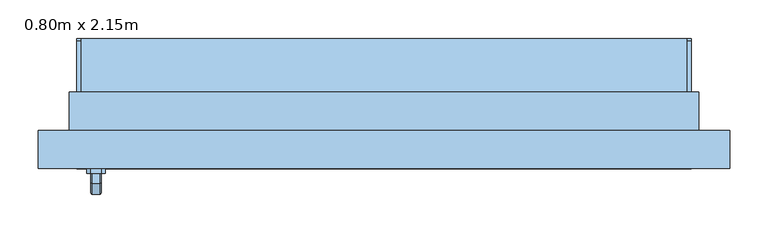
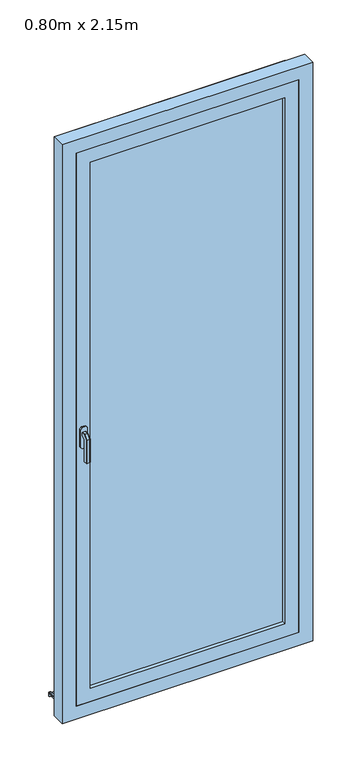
"""IFC4 building model written with IfcOpenShell, lengths in millimetres: window geometry, PF 1 Vantail - Droite : 0.80m x 2.15m."""

from ifc_helpers import new_model, si_unit, point, frame, frame_2d, origin, place, context, project, spatial, polyline, circle_curve, trimmed, segment, composite_curve, outline, extrude, faceted_brep, source, transform, mapped, element, save


def window_0_80m_x_2_15m_73fb6ae2(model_context):
    return source(origin(), model_context, "Body", "SolidModel", [
        faceted_brep([(-369.3539903, -86.0, 1122.0339292), (-367.9660708, -86.0, 1120.6460097), (-367.9660708, -86.0, 1109.3323012), (-369.3323012, -86.0, 1107.9660708), (-380.6676988, -86.0, 1107.9660708), (-382.0339292, -86.0, 1109.3323012), (-382.0339292, -86.0, 1120.6460097), (-380.6460097, -86.0, 1122.0339292), (-369.3539903, -98.9135489, 1122.0339292), (-367.9660708, -98.3386538, 1120.6460097), (-367.9660708, -111.6460097, 1107.3386538), (-367.9660708, -111.6460097, 1020.0), (-367.9660708, -100.3323012, 1020.0), (-367.9660708, -100.3323012, 1102.6523623), (-367.9660708, -93.6523623, 1109.3323012), (-369.3323012, -93.0864511, 1107.9660708), (-380.6676988, -93.0864511, 1107.9660708), (-382.0339292, -93.6523623, 1109.3323012), (-382.0339292, -100.3323012, 1102.6523623), (-382.0339292, -100.3323012, 1020.0), (-382.0339292, -111.6460097, 1020.0), (-382.0339292, -111.6460097, 1107.3386538), (-382.0339292, -98.3386538, 1120.6460097), (-380.6460097, -98.9135489, 1122.0339292), (-369.3539903, -113.0339292, 1107.9135489), (-369.3323012, -98.9660708, 1102.0864511), (-380.6676988, -98.9660708, 1102.0864511), (-380.6460097, -113.0339292, 1107.9135489), (-369.3539903, -113.0339292, 1020.0), (-380.6460097, -113.0339292, 1020.0), (-380.6676988, -98.9660708, 1020.0), (-369.3323012, -98.9660708, 1020.0)], [[[0, 1, 2, 3, 4, 5, 6, 7]], [[1, 0, 8, 9]], [[2, 1, 9, 10, 11, 12, 13, 14]], [[3, 2, 14, 15]], [[4, 3, 15, 16]], [[5, 4, 16, 17]], [[6, 5, 17, 18, 19, 20, 21, 22]], [[7, 6, 22, 23]], [[0, 7, 23, 8]], [[9, 8, 24, 10]], [[15, 14, 13, 25]], [[16, 15, 25, 26]], [[17, 16, 26, 18]], [[23, 22, 21, 27]], [[8, 23, 27, 24]], [[28, 29, 20, 19, 30, 31, 12, 11]], [[10, 24, 28, 11]], [[25, 13, 12, 31]], [[26, 25, 31, 30]], [[18, 26, 30, 19]], [[27, 21, 20, 29]], [[24, 27, 29, 28]]]),
        extrude(outline(polyline([(1140.0, -368.0), (1140.0, -382.0), (1135.0, -387.0), (1065.0, -387.0), (1060.0, -382.0), (1060.0, -368.0), (1065.0, -363.0), (1135.0, -363.0), (1140.0, -368.0)])), frame((0.0, -86.0, 0.0), z_axis=(0.0, 1.0, 0.0), x_axis=(0.0, 0.0, 1.0)), (0.0, 0.0, 1.0), 6.0),
        extrude(outline(polyline([(90.0288776, 30.7927954), (90.0288776, 19.7145929), (85.0288776, 20.2401141), (85.0288776, 26.0631048), (0.0, 35.0), (0.0, 50.0), (5.0, 50.0), (5.0, 39.7296906), (90.0288776, 30.7927954)])), frame((-400.0, 0.0, 0.0), z_axis=(1.0, 0.0, 0.0), x_axis=(0.0, 1.0, 0.0)), (0.0, 0.0, 1.0), 800.0),
        extrude(outline(composite_curve([segment(polyline([(90.0288776, 30.7927954), (5.0, 39.7296906), (5.0, 44.757232), (86.4469915, 36.1968082)]), True, "CONTINUOUS"), segment(trimmed(circle_curve(frame_2d((86.0288776, 32.2187207)), 4.0), [point((86.4469915, 36.1968082))], [point((90.0288776, 32.2187207))], False, "CARTESIAN"), True, "CONTINUOUS"), segment(polyline([(90.0288776, 32.2187207), (90.0288776, 30.7927954)]), True, "CONTINUOUS")], self_intersect=False)), frame((-400.0, 0.0, 0.0), z_axis=(1.0, 0.0, 0.0), x_axis=(0.0, 1.0, 0.0)), (0.0, 0.0, 1.0), 5.0),
        extrude(outline(composite_curve([segment(polyline([(90.0288776, 30.7927954), (5.0, 39.7296906), (5.0, 44.757232), (86.4469915, 36.1968082)]), True, "CONTINUOUS"), segment(trimmed(circle_curve(frame_2d((86.0288776, 32.2187207)), 4.0), [point((86.4469915, 36.1968082))], [point((90.0288776, 32.2187207))], False, "CARTESIAN"), True, "CONTINUOUS"), segment(polyline([(90.0288776, 32.2187207), (90.0288776, 30.7927954)]), True, "CONTINUOUS")], self_intersect=False)), frame((395.0, 0.0, 0.0), z_axis=(1.0, 0.0, 0.0), x_axis=(0.0, 1.0, 0.0)), (0.0, 0.0, 1.0), 5.0),
        extrude(outline(polyline([(-350.0, -54.0), (350.0, -54.0), (350.0, -66.0), (-350.0, -66.0), (-350.0, -54.0)])), frame((0.0, 0.0, 135.0), z_axis=(0.0, 0.0, 1.0), x_axis=(1.0, 0.0, 0.0)), (0.0, 0.0, 1.0), 2000.0),
        extrude(outline(polyline([(85.0, 400.0), (2185.0, 400.0), (2185.0, -400.0), (85.0, -400.0), (85.0, 400.0)]), holes=[polyline([(135.0, -350.0), (2135.0, -350.0), (2135.0, 350.0), (135.0, 350.0), (135.0, -350.0)])]), frame((0.0, -80.0, 0.0), z_axis=(0.0, 1.0, 0.0), x_axis=(0.0, 0.0, 1.0)), (0.0, 0.0, 1.0), 40.0),
        faceted_brep([(-450.0, -80.0, 35.0), (-450.0, -30.0, 35.0), (-400.0, -30.0, 35.0), (-400.0, 0.0, 35.0), (400.0, 0.0, 35.0), (400.0, -30.0, 35.0), (450.0, -30.0, 35.0), (450.0, -80.0, 35.0), (-450.0, -80.0, 2235.0), (-450.0, -30.0, 2235.0), (450.0, -30.0, 2235.0), (400.0, -30.0, 74.3761425), (-400.0, -30.0, 74.3761425), (-385.0, -30.0, 2170.0), (-385.0, -30.0, 100.0), (385.0, -30.0, 100.0), (385.0, -30.0, 2170.0), (-400.0, 20.0, 60.9786829), (-400.0, 20.0, 45.0), (-400.0, 10.0, 45.0), (-400.0, 10.0, 50.0), (-400.0, 0.0, 50.0), (400.0, 0.0, 50.0), (400.0, 10.0, 50.0), (400.0, 10.0, 45.0), (400.0, 20.0, 45.0), (400.0, 20.0, 60.9786829), (450.0, -80.0, 2235.0), (400.0, -80.0, 2185.0), (400.0, -80.0, 85.0), (-400.0, -80.0, 85.0), (-400.0, -80.0, 2185.0), (-385.0, -40.0, 2170.0), (-385.0, -40.0, 100.0), (385.0, -40.0, 100.0), (385.0, -40.0, 2170.0), (400.0, -40.0, 2185.0), (-400.0, -40.0, 2185.0), (-400.0, -40.0, 85.0), (400.0, -40.0, 85.0)], [[[0, 1, 2, 3, 4, 5, 6, 7]], [[1, 0, 8, 9]], [[1, 9, 10, 6, 5, 11, 12, 2], [13, 14, 15, 16]], [[12, 17, 18, 19, 20, 21, 3, 2]], [[3, 21, 22, 4]], [[4, 22, 23, 24, 25, 26, 11, 5]], [[6, 10, 27, 7]], [[0, 7, 27, 8], [28, 29, 30, 31]], [[13, 32, 33, 14]], [[33, 34, 15, 14]], [[35, 16, 15, 34]], [[17, 12, 11, 26]], [[36, 37, 38, 39], [32, 35, 34, 33]], [[38, 37, 31, 30]], [[30, 29, 39, 38]], [[28, 36, 39, 29]], [[18, 17, 26, 25]], [[19, 18, 25, 24]], [[20, 19, 24, 23]], [[21, 20, 23, 22]], [[13, 16, 35, 32]], [[37, 36, 28, 31]], [[10, 9, 8, 27]]]),
        extrude(outline(polyline([(35.0, -410.0), (35.0, -400.0), (2185.0, -400.0), (2185.0, 400.0), (35.0, 400.0), (35.0, 410.0), (2195.0, 410.0), (2195.0, -410.0), (35.0, -410.0)])), frame((0.0, -30.0, 0.0), z_axis=(0.0, 1.0, 0.0), x_axis=(0.0, 0.0, 1.0)), (0.0, 0.0, 1.0), 50.0),
    ])


if __name__ == "__main__":
    model = new_model("IFC4")
    model_context = context("Model", 3, world=origin())
    ifc_project = project(units=[si_unit("LENGTHUNIT", "METRE", prefix="MILLI")], contexts=[model_context])
    site = spatial("IfcSite", under=ifc_project)
    building = spatial("IfcBuilding", under=site)
    placement = place(None, origin())
    window_0_80m_x_2_15m_shape = window_0_80m_x_2_15m_73fb6ae2(model_context)
    element("IfcWindow", 1, ObjectType="PF 1 Vantail - Droite : 0.80m x 2.15m", at=placement, inside=building, context=model_context, shape_type="MappedRepresentation", body=[
        mapped(window_0_80m_x_2_15m_shape, transform((0.0, 0.0, 0.0), x_axis=(1.0, 0.0, 0.0), y_axis=(0.0, 1.0, 0.0), z_axis=(0.0, 0.0, 1.0))),
    ])
    save(model, "model.ifc")
